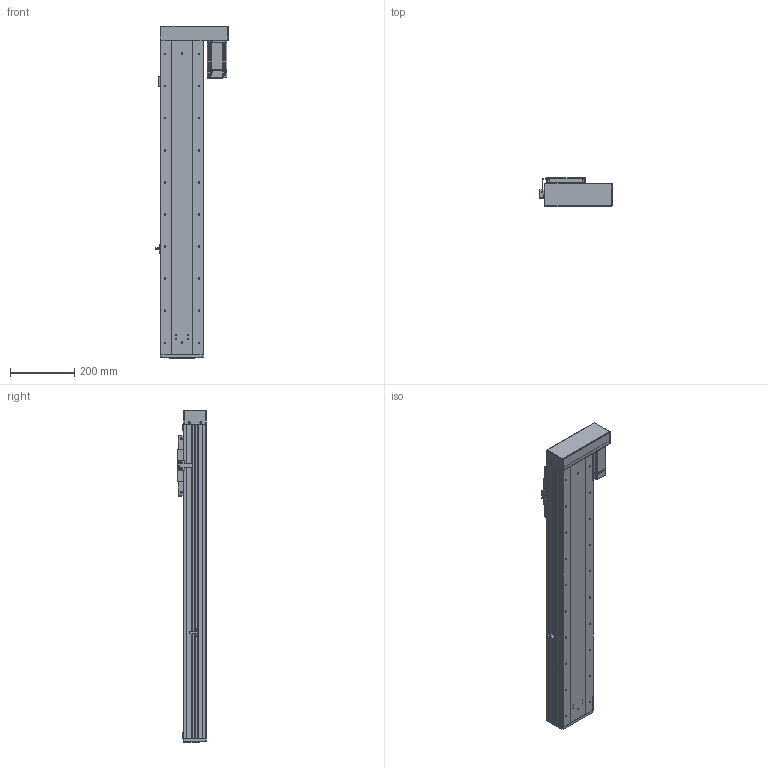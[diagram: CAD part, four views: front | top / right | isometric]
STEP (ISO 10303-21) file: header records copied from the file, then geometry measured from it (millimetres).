
FILE_DESCRIPTION (( 'STEP AP203' ), '1' );
FILE_NAME ('RY140F-L2020-300-RK.SLDASM_700.step', '2021-03-02T08:50:29', ( '盈信电脑' ), ( '东莞市道滘镇水果街19号' ), 'SwSTEP 2.0', 'SolidWorks 2012', '' );
FILE_SCHEMA (( 'CONFIG_CONTROL_DESIGN' ));
Length unit declared in the file: millimetre
Products named in the file (19): RY140F-300-RK倰第菁釱_700; RY140F-300-RK蛌殏詩湍_700; RY140F-300-RK倰第奻裔啣_700; RY140F-直连型材铝滑块连接座; RY140F-L2020-300-RK.SLDASM_700; RY140F-酘衵殏萇儂欶(400W); RY140F-詩湍揤え; 侐源滅袉蝶; RY140F-左右折电机安装板(400W M5); RY140F-转折折电机座（7001）; 侂狟400W侜督萇儂; 15; RY140F-672覜茼んえ; 覜茼ん672; RY140F-后盖板(铝件）; RY140F-直连型材铝滑块(16丝杆); RY100F-詩湍揤踡謫; RY140F-滅鳥奻裔; RY140F-詩湍幗謫粣
Assembly tree (23 placements, depth 3):
  RY140F-L2020-300-RK.SLDASM_700
    RY140F-300-RK倰第菁釱_700
    RY140F-300-RK倰第奻裔啣_700  x2
    RY140F-300-RK蛌殏詩湍_700
    RY140F-直连型材铝滑块连接座
    RY140F-滅鳥奻裔
    RY140F-詩湍幗謫粣
    RY100F-詩湍揤踡謫
    RY140F-直连型材铝滑块(16丝杆)
    RY140F-后盖板(铝件）
    侂狟400W侜督萇儂
      15
    覜茼ん672
    RY140F-672覜茼んえ
    RY140F-詩湍揤え  x2
    侐源滅袉蝶  x4
    RY140F-转折折电机座（7001）
    RY140F-左右折电机安装板(400W M5)
    RY140F-酘衵殏萇儂欶(400W)
Bounding box: 224.7 x 91 x 1034 mm (x, y, z)
Volume: 4090410.1 mm3; surface area: 1458582.8 mm2
Topology: 22 solids, 22 shells, 2053 faces, 5597 edges, 3546 vertices
Faces by surface type: cylinder 1000, plane 789, cone 234, bspline 26, torus 4
Entity records: 64747 total; most frequent: CARTESIAN_POINT 13667, DIRECTION 10390, ORIENTED_EDGE 10066, EDGE_CURVE 5033, AXIS2_PLACEMENT_3D 3733, VERTEX_POINT 3286, LINE 2924, VECTOR 2924
